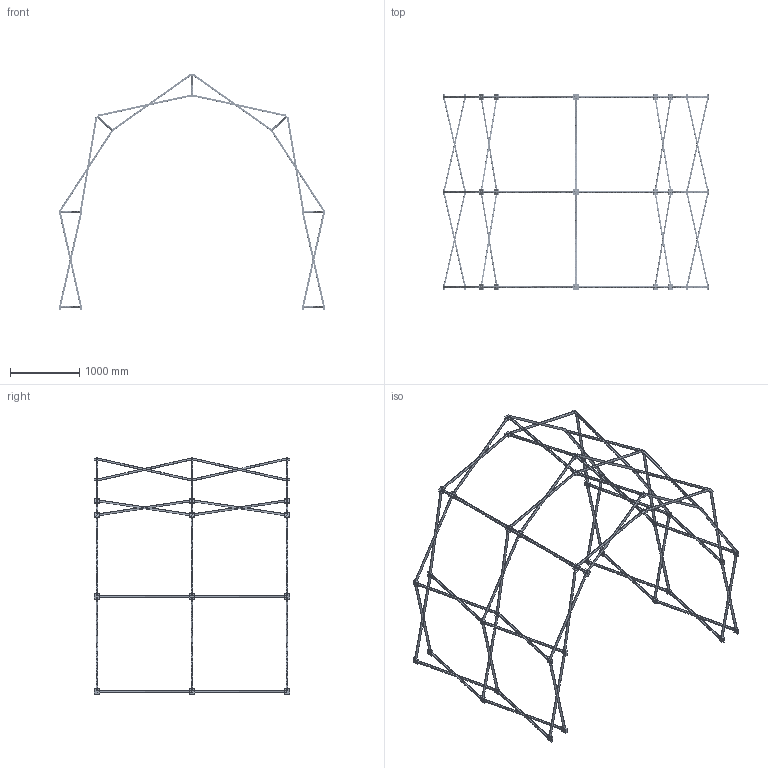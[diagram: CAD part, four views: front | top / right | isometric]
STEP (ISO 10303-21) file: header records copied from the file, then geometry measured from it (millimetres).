
FILE_DESCRIPTION(/* description */ (''),/* implementation_level */ '2;1');
FILE_NAME(/* name */ 'theTent rought 3D',/* time_stamp */ '2026-03-18T08:45:36+01:00',/* author */ (''),/* organization */ (''),/* preprocessor_version */ 'ST-DEVELOPER v19.2',/* originating_system */ 'Rhino 8.15',/* authorisation */ '');
FILE_SCHEMA (('CONFIG_CONTROL_DESIGN'));
Length unit declared in the file: metre
Products named in the file (1): Document
Bounding box: 3844.15 x 2825.3 x 3414.77 mm (x, y, z)
Surface area: 8926998 mm2 (no closed solid volume)
Topology: 0 solids, 190 shells, 444 faces, 1544 edges, 1312 vertices
Faces by surface type: plane 380, bspline 64
Entity records: 18188 total; most frequent: CARTESIAN_POINT 8878, ORIENTED_EDGE 1904, EDGE_CURVE 1544, B_SPLINE_CURVE_WITH_KNOTS 1352, VERTEX_POINT 1312, EDGE_LOOP 572, ADVANCED_FACE 444, FACE_OUTER_BOUND 444
